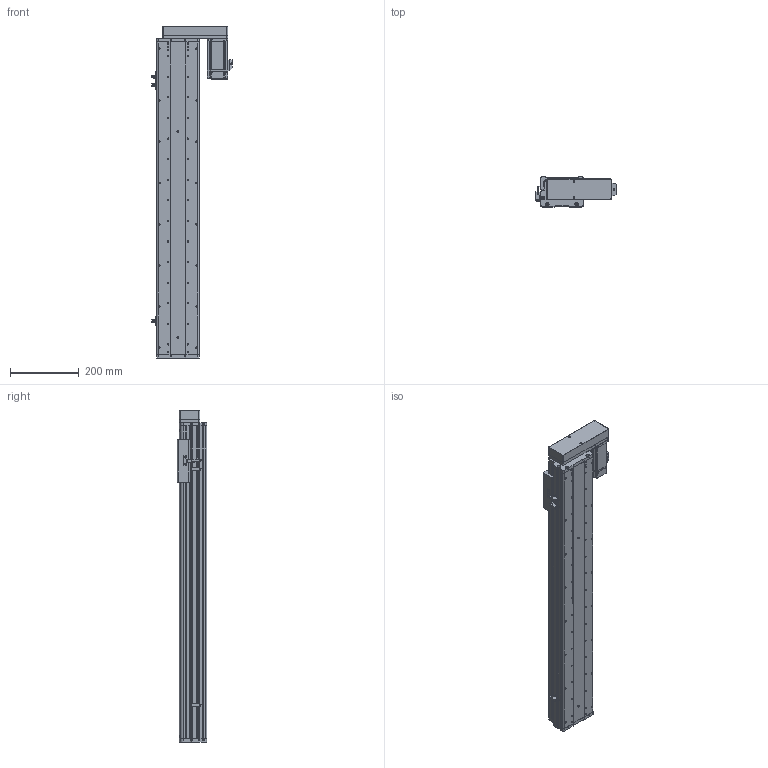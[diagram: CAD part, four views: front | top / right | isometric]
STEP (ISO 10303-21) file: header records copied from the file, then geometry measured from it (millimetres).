
FILE_DESCRIPTION (( 'STEP AP214' ), '1' );
FILE_NAME ('KSD125S-S700-MR-CM.STEP', '2017-10-21T09:00:22', ( '微软用户' ), ( '微软中国' ), 'SwSTEP 2.0', 'SolidWorks 2014', '' );
FILE_SCHEMA (( 'AUTOMOTIVE_DESIGN' ));
Length unit declared in the file: millimetre
Products named in the file (16): 125宽马达安装板连板左右折丝杆; 125悵誘欶酘衵殏; KSD125S-700俴最佪裝滅鳥裔; KSD125S-700俴最佪裝菁啣; MHMD042G1CA_2_03; 拸萇儂釱滅袉菜; 拸萇儂釱滅袉菜-1; 覜茼え68遵圉猾敕; U倰嫖萇假蚾璃; U倰嫖萇EEㄜSX672; ヶ傷啣-125遵耀郪; KSD125-賑雄釱1; 125-帣傷啣1; KSD125S-S700-MR-CM; HTPA30S3M150_A_H6_a佪裝蚚; HTPA30S3M150_A_H6_a萇儂蚚
Assembly tree (19 placements, depth 2):
  KSD125S-S700-MR-CM
    125-帣傷啣1
    KSD125-賑雄釱1
    ヶ傷啣-125遵耀郪
    U倰嫖萇EEㄜSX672  x3
    U倰嫖萇假蚾璃  x3
    覜茼え68遵圉猾敕
    拸萇儂釱滅袉菜-1
    拸萇儂釱滅袉菜
    MHMD042G1CA_2_03
    KSD125S-700俴最佪裝菁啣
    KSD125S-700俴最佪裝滅鳥裔
    125悵誘欶酘衵殏
    125宽马达安装板连板左右折丝杆
    HTPA30S3M150_A_H6_a萇儂蚚
    HTPA30S3M150_A_H6_a佪裝蚚
Bounding box: 234.2 x 86 x 967.5 mm (x, y, z)
Volume: 3175352.9 mm3; surface area: 1086003.2 mm2
Topology: 18 solids, 21 shells, 2219 faces, 6435 edges, 4245 vertices
Faces by surface type: cylinder 1394, plane 684, cone 119, bspline 22
Entity records: 78353 total; most frequent: CARTESIAN_POINT 15913, DIRECTION 12229, ORIENTED_EDGE 11378, EDGE_CURVE 5767, AXIS2_PLACEMENT_3D 4731, VERTEX_POINT 3837, LINE 2767, VECTOR 2767
